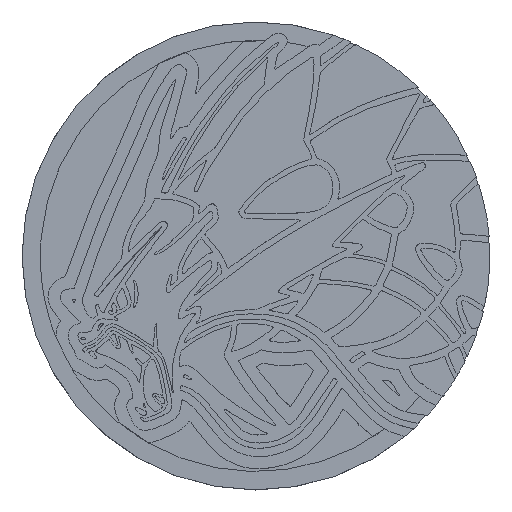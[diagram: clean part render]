
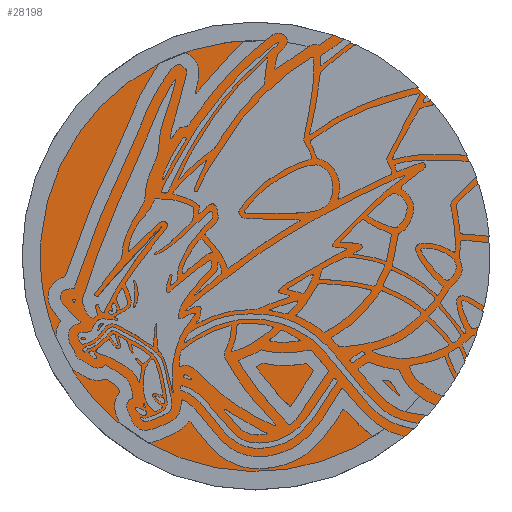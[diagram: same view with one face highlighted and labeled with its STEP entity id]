
A CAD part, top view. The second image highlights one B-rep face of the part: STEP entity #28198.
In plain terms, the highlighted planar face has unit normal (0, 0, 1).
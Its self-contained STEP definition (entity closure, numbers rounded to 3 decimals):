
#183=CIRCLE('',#29205,15.);
#500=PLANE('',#29204);
#1625=FACE_OUTER_BOUND('',#3239,.T.);
#3239=EDGE_LOOP('',(#22732));
#11646=VERTEX_POINT('',#48706);
#15511=EDGE_CURVE('',#11646,#11646,#183,.T.);
#22732=ORIENTED_EDGE('',*,*,#15511,.F.);
#28198=ADVANCED_FACE('',(#1625),#500,.T.);
#29204=AXIS2_PLACEMENT_3D('',#48705,#30863,#30864);
#29205=AXIS2_PLACEMENT_3D('',#48707,#30865,#30866);
#30863=DIRECTION('center_axis',(0.,0.,1.));
#30864=DIRECTION('ref_axis',(1.,0.,0.));
#30865=DIRECTION('center_axis',(0.,0.,-1.));
#30866=DIRECTION('ref_axis',(1.,0.,0.));
#48705=CARTESIAN_POINT('Origin',(15.,-15.,1.16));
#48706=CARTESIAN_POINT('',(0.,-15.,1.16));
#48707=CARTESIAN_POINT('Origin',(15.,-15.,1.16));
